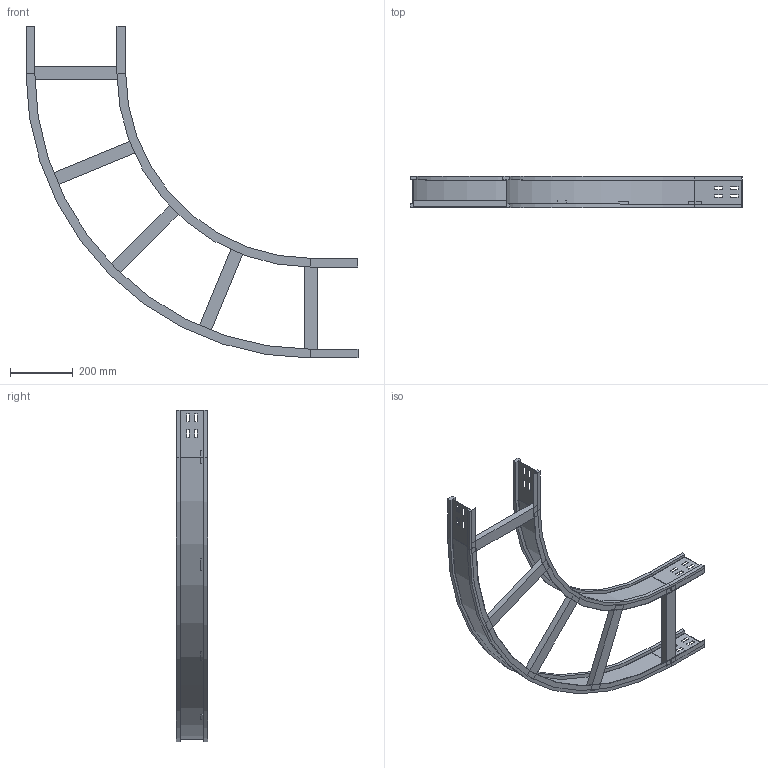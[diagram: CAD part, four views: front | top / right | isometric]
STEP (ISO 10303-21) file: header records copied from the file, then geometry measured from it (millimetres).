
FILE_DESCRIPTION (( 'STEP AP214' ), '1' );
FILE_NAME ('10S6D300.step', '2025-02-21T16:09:28', ( '' ), ( '' ), 'SwSTEP 2.0', 'SolidWorks 2023', '' );
FILE_SCHEMA (( 'AUTOMOTIVE_DESIGN' ));
Length unit declared in the file: millimetre
Products named in the file (4): LONGH.ESTERNO 90°_H100_R600+300; 10S6D300; TRAVERSINO_300; LONGH.INTERNO 90°_H100_R600
Assembly tree (7 placements, depth 2):
  10S6D300
    LONGH.INTERNO 90°_H100_R600
    LONGH.ESTERNO 90°_H100_R600+300
    TRAVERSINO_300  x5
Bounding box: 1059 x 100 x 1059 mm (x, y, z)
Volume: 2764972.1 mm3; surface area: 1062327.8 mm2
Topology: 7 solids, 7 shells, 170 faces, 420 edges, 264 vertices
Faces by surface type: plane 158, cylinder 12
Entity records: 4493 total; most frequent: CARTESIAN_POINT 760, ORIENTED_EDGE 744, DIRECTION 708, EDGE_CURVE 372, LINE 348, VECTOR 348, VERTEX_POINT 232, AXIS2_PLACEMENT_3D 180
